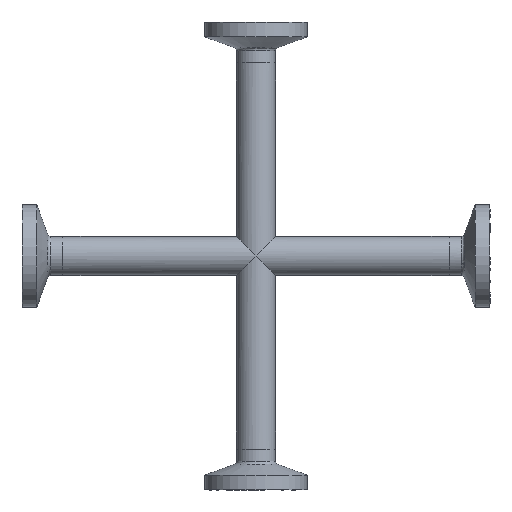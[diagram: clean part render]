
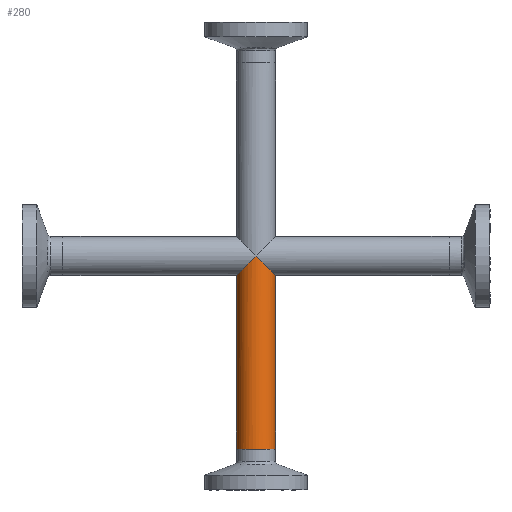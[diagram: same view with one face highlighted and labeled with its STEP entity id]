
A CAD part, front view. The second image highlights one B-rep face of the part: STEP entity #280.
In plain terms, the highlighted cylindrical face has radius 4.763 mm (diameter 9.525 mm), a partial arc.
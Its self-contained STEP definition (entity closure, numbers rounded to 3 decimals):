
#56 = EDGE_CURVE ( 'NONE', #1737, #1968, #1407, .T. ) ;
#97 = CARTESIAN_POINT ( 'NONE',  ( 0., 0., -47.15 ) ) ;
#159 = CARTESIAN_POINT ( 'NONE',  ( 0., 0., -47.15 ) ) ;
#233 = CIRCLE ( 'NONE', #1733, 4.763 ) ;
#280 = ADVANCED_FACE ( 'NONE', ( #3088 ), #850, .T. ) ;
#345 = CARTESIAN_POINT ( 'NONE',  ( 0., -4.762, 0. ) ) ;
#385 = DIRECTION ( 'NONE',  ( 1., 0., 0. ) ) ;
#441 = DIRECTION ( 'NONE',  ( 0., 0., 1. ) ) ;
#556 = EDGE_CURVE ( 'NONE', #751, #2504, #1618, .T. ) ;
#577 = CARTESIAN_POINT ( 'NONE',  ( 0., -4.762, 0. ) ) ;
#623 =( BOUNDED_CURVE ( )  B_SPLINE_CURVE ( 3, ( #2966, #719, #2440, #2407 ),
 .UNSPECIFIED., .F., .T. ) 
 B_SPLINE_CURVE_WITH_KNOTS ( ( 4, 4 ),
 ( 0., 1.571 ),
 .UNSPECIFIED. ) 
 CURVE ( )  GEOMETRIC_REPRESENTATION_ITEM ( )  RATIONAL_B_SPLINE_CURVE ( ( 1., 0.805, 0.805, 1. ) ) 
 REPRESENTATION_ITEM ( '' )  );
#719 = CARTESIAN_POINT ( 'NONE',  ( 4.762, -2.79, -4.762 ) ) ;
#720 = DIRECTION ( 'NONE',  ( 1., 0., 0. ) ) ;
#721 = ORIENTED_EDGE ( 'NONE', *, *, #2940, .F. ) ;
#722 = CARTESIAN_POINT ( 'NONE',  ( 4.763, 0., -47.15 ) ) ;
#751 = VERTEX_POINT ( 'NONE', #722 ) ;
#805 = VECTOR ( 'NONE', #1694, 1000. ) ;
#850 = CYLINDRICAL_SURFACE ( 'NONE', #1271, 4.763 ) ;
#860 = CARTESIAN_POINT ( 'NONE',  ( -2.79, -4.762, -2.79 ) ) ;
#1031 = CARTESIAN_POINT ( 'NONE',  ( -4.763, 0., -4.763 ) ) ;
#1137 = CARTESIAN_POINT ( 'NONE',  ( -4.763, 0., -4.763 ) ) ;
#1271 = AXIS2_PLACEMENT_3D ( 'NONE', #159, #441, #720 ) ;
#1371 = CARTESIAN_POINT ( 'NONE',  ( -4.763, 0., -47.15 ) ) ;
#1407 =( BOUNDED_CURVE ( )  B_SPLINE_CURVE ( 3, ( #577, #860, #2560, #1137 ),
 .UNSPECIFIED., .F., .F. ) 
 B_SPLINE_CURVE_WITH_KNOTS ( ( 4, 4 ),
 ( 1.571, 3.142 ),
 .UNSPECIFIED. ) 
 CURVE ( )  GEOMETRIC_REPRESENTATION_ITEM ( )  RATIONAL_B_SPLINE_CURVE ( ( 1., 0.805, 0.805, 1. ) ) 
 REPRESENTATION_ITEM ( '' )  );
#1618 = LINE ( 'NONE', #3412, #805 ) ;
#1694 = DIRECTION ( 'NONE',  ( 0., 0., 1. ) ) ;
#1733 = AXIS2_PLACEMENT_3D ( 'NONE', #97, #2063, #385 ) ;
#1737 = VERTEX_POINT ( 'NONE', #345 ) ;
#1968 = VERTEX_POINT ( 'NONE', #1031 ) ;
#2006 = EDGE_CURVE ( 'NONE', #2504, #1737, #623, .T. ) ;
#2063 = DIRECTION ( 'NONE',  ( 0., 0., 1. ) ) ;
#2094 = CARTESIAN_POINT ( 'NONE',  ( 4.763, 0., -4.763 ) ) ;
#2328 = ORIENTED_EDGE ( 'NONE', *, *, #2006, .T. ) ;
#2407 = CARTESIAN_POINT ( 'NONE',  ( 0., -4.762, 0. ) ) ;
#2423 = ORIENTED_EDGE ( 'NONE', *, *, #56, .T. ) ;
#2440 = CARTESIAN_POINT ( 'NONE',  ( 2.79, -4.763, -2.79 ) ) ;
#2474 = LINE ( 'NONE', #3525, #3365 ) ;
#2504 = VERTEX_POINT ( 'NONE', #2094 ) ;
#2560 = CARTESIAN_POINT ( 'NONE',  ( -4.762, -2.79, -4.762 ) ) ;
#2726 = DIRECTION ( 'NONE',  ( 0., 0., 1. ) ) ;
#2940 = EDGE_CURVE ( 'NONE', #3473, #1968, #2474, .T. ) ;
#2966 = CARTESIAN_POINT ( 'NONE',  ( 4.763, 0., -4.763 ) ) ;
#2973 = ORIENTED_EDGE ( 'NONE', *, *, #3553, .T. ) ;
#3065 = EDGE_LOOP ( 'NONE', ( #721, #2973, #3275, #2328, #2423 ) ) ;
#3088 = FACE_OUTER_BOUND ( 'NONE', #3065, .T. ) ;
#3275 = ORIENTED_EDGE ( 'NONE', *, *, #556, .T. ) ;
#3365 = VECTOR ( 'NONE', #2726, 1000. ) ;
#3412 = CARTESIAN_POINT ( 'NONE',  ( 4.763, 0., -47.15 ) ) ;
#3473 = VERTEX_POINT ( 'NONE', #1371 ) ;
#3525 = CARTESIAN_POINT ( 'NONE',  ( -4.763, 0., -47.15 ) ) ;
#3553 = EDGE_CURVE ( 'NONE', #3473, #751, #233, .T. ) ;
